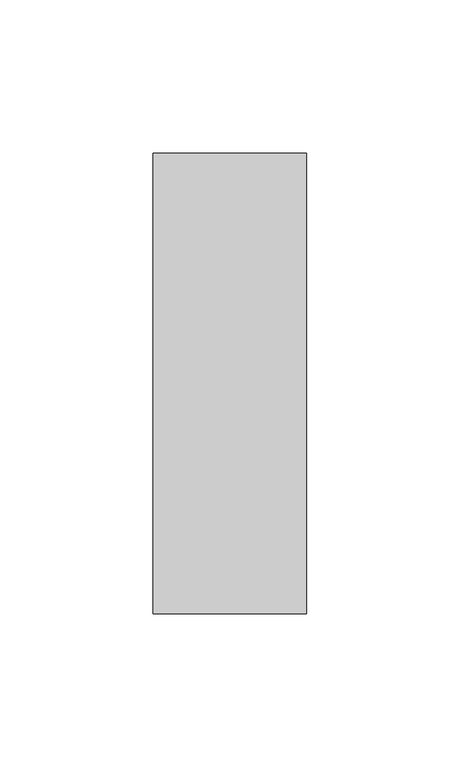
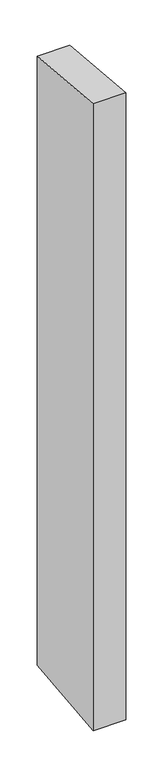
"""IFC4 building model written with IfcOpenShell, lengths in millimetres: member geometry, Прямоугольный импост : 50 x 150 мм."""

from ifc_helpers import new_model, si_unit, origin, place, context, project, spatial, faceted_brep, source, transform, mapped, element, save


def member_4379302e(model_context):
    return source(origin(), model_context, "Body", "Brep", [
        faceted_brep([(-25.0, 75.0, -6.6124933), (25.0, 75.0, -6.2540605), (25.0, 75.0, -1002.9736204), (-25.0, 75.0, -1002.6778536), (-25.0, -75.0, 6.2540605), (-25.0, -75.0, -1018.8735545), (25.0, -75.0, 6.6124933), (25.0, -75.0, -1019.1693214)], [[[0, 1, 2, 3]], [[4, 0, 3, 5]], [[6, 4, 5, 7]], [[1, 6, 7, 2]], [[1, 0, 4, 6]], [[2, 7, 5, 3]]]),
    ])


if __name__ == "__main__":
    model = new_model("IFC4")
    model_context = context("Model", 3, world=origin())
    ifc_project = project(units=[si_unit("LENGTHUNIT", "METRE", prefix="MILLI")], contexts=[model_context])
    site = spatial("IfcSite", under=ifc_project)
    building = spatial("IfcBuilding", under=site)
    placement = place(None, origin())
    member_shape = member_4379302e(model_context)
    element("IfcMember", 1, ObjectType="Прямоугольный импост : 50 x 150 мм", at=placement, inside=building, context=model_context, shape_type="MappedRepresentation", body=[
        mapped(member_shape, transform((0.0, 0.0, 0.0), x_axis=(1.0, 0.0, 0.0), y_axis=(0.0, 1.0, 0.0), z_axis=(0.0, 0.0, 1.0))),
    ])
    save(model, "model.ifc")
